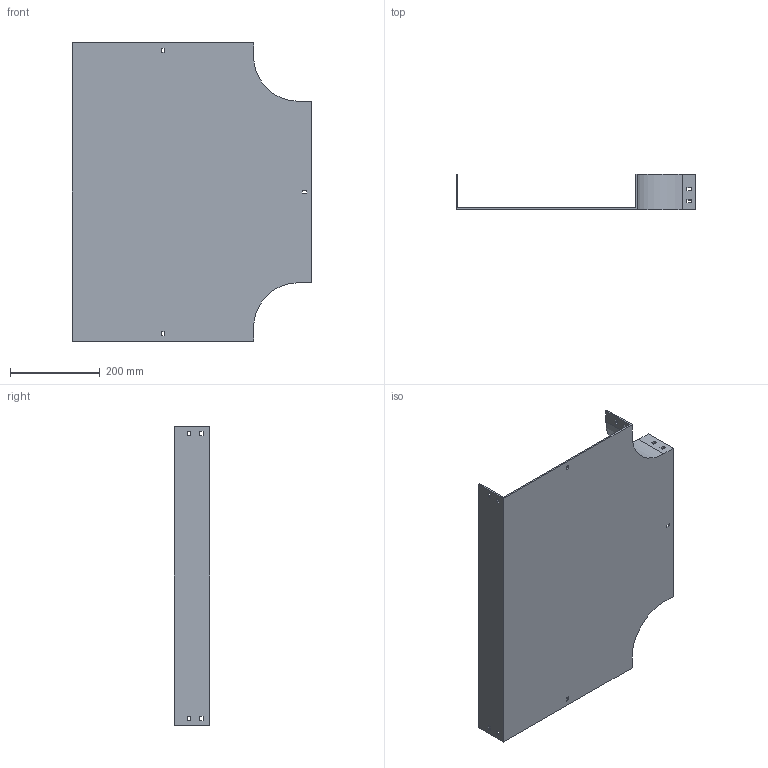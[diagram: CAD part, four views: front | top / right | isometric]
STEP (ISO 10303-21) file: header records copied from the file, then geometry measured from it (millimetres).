
FILE_DESCRIPTION (( 'STEP AP214' ), '1' );
FILE_NAME ('15F1C400.step', '2025-02-21T13:04:51', ( '' ), ( '' ), 'SwSTEP 2.0', 'SolidWorks 2023', '' );
FILE_SCHEMA (( 'AUTOMOTIVE_DESIGN' ));
Length unit declared in the file: millimetre
Products named in the file (1): 15F1C400
Bounding box: 534 x 79 x 664 mm (x, y, z)
Volume: 1425825.3 mm3; surface area: 826181.8 mm2
Topology: 1 solids, 1 shells, 82 faces, 240 edges, 160 vertices
Faces by surface type: plane 78, cylinder 4
Entity records: 2755 total; most frequent: CARTESIAN_POINT 483, ORIENTED_EDGE 480, DIRECTION 414, EDGE_CURVE 240, LINE 232, VECTOR 232, VERTEX_POINT 160, EDGE_LOOP 112
